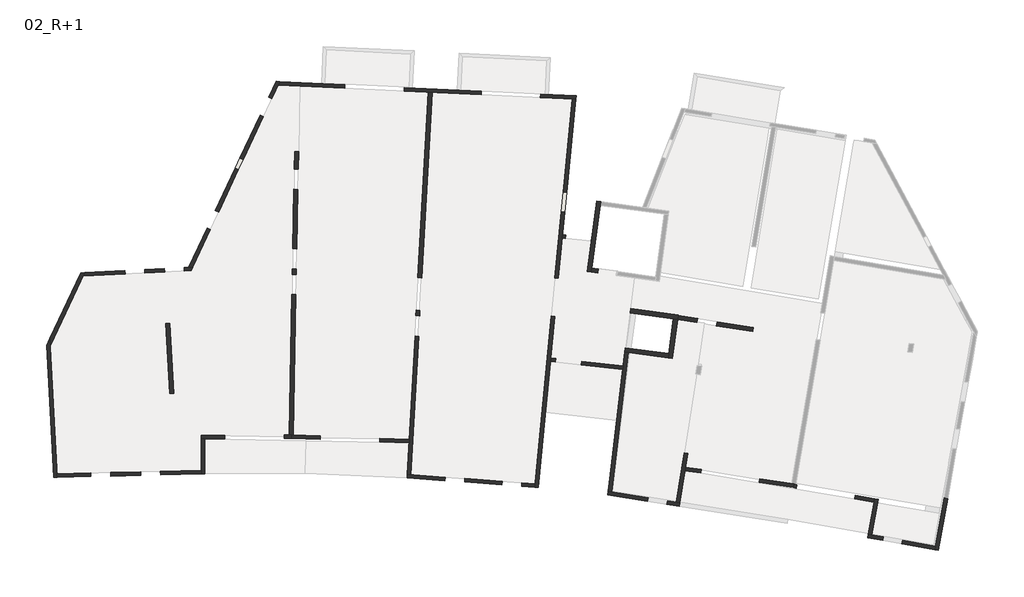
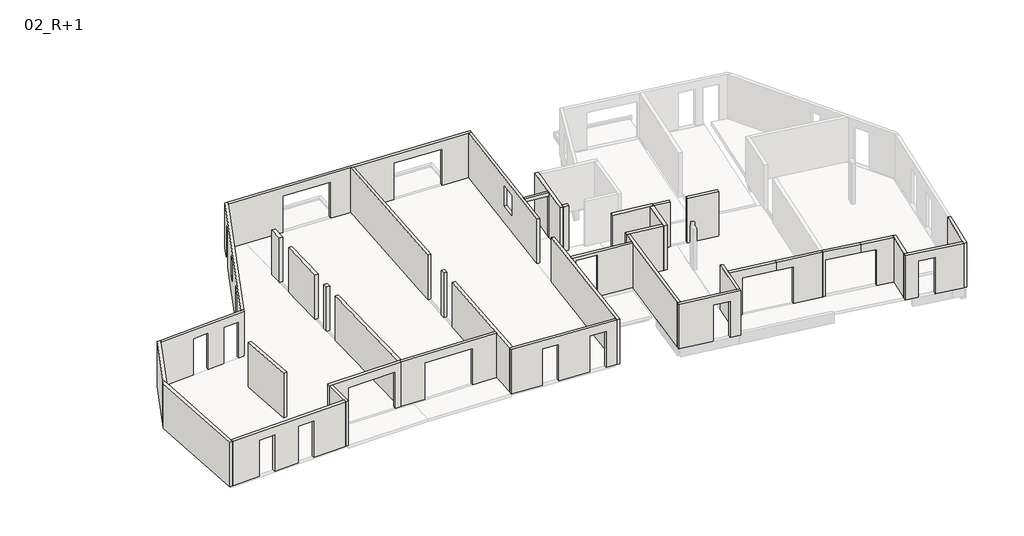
# One storey, part 1 of 3: 39 walls.
"""IFC4 building model written with IfcOpenShell, lengths in millimetres."""

from ifc_helpers import new_model, si_unit, frame, origin, place, context, project, spatial, polyline, outline, extrude, faceted_brep, element, save

model = new_model("IFC4")

# Units and contexts
model_context = context("Model", 3, world=origin())
ifc_project = project(units=[si_unit("LENGTHUNIT", "METRE", prefix="MILLI")], contexts=[model_context])

# Site, building, storey
site = spatial("IfcSite", under=ifc_project)
building = spatial("IfcBuilding", under=site)
storey = spatial("IfcBuildingStorey", under=building, Name="02_R+1", Elevation=24440.0)

# Walls
placement = place(None, origin())
element("IfcWall", 1, ObjectType="premur 16", at=placement, inside=storey, context=model_context, shape_type="Brep", body=[
    faceted_brep([(-17158.9755393, -917.3730061, 24440.0), (-17167.4464085, -757.5277977, 24440.0), (-17476.2392068, 5069.3889465, 24440.0), (-17494.0520225, 5405.5165831, 24440.0), (-17494.0520225, 5405.5165831, 27140.0), (-17476.2392068, 5069.3889465, 27140.0), (-17167.4464085, -757.5277977, 27140.0), (-17158.9755393, -917.3730061, 27140.0), (-17319.0009425, -921.1302131, 24440.0), (-17319.0009425, -921.1302131, 27140.0), (-17638.1560951, 5101.3240442, 27140.0), (-17638.1560951, 5101.3240442, 24440.0)], [[[0, 1, 2, 3, 4, 5, 6, 7]], [[8, 9, 10, 11]], [[3, 2, 1, 0, 8, 11]], [[7, 6, 5, 4, 10, 9]], [[4, 3, 11, 10]], [[0, 7, 9, 8]]]),
])
element("IfcWall", 2, ObjectType="premur 16", at=placement, inside=storey, context=model_context, shape_type="Brep", body=[
    faceted_brep([(-17476.2392068, 5069.3889465, 24440.0), (-15971.2579455, 8246.287853, 24440.0), (-15893.3800838, 8410.6819886, 24440.0), (-15893.3800838, 8410.6819886, 27140.0), (-15971.2579455, 8246.287853, 27140.0), (-17476.2392068, 5069.3889465, 27140.0), (-17494.0520225, 5405.5165831, 24440.0), (-17494.0520225, 5405.5165831, 27140.0), (-16075.0280874, 8400.9662298, 27140.0), (-16075.0280874, 8400.9662298, 24440.0)], [[[0, 1, 2, 3, 4, 5]], [[6, 7, 8, 9]], [[2, 1, 0, 6, 9]], [[5, 4, 3, 8, 7]], [[0, 5, 7, 6]], [[3, 2, 9, 8]]]),
])
element("IfcWall", 3, ObjectType="Voile BA 16", at=placement, inside=storey, context=model_context, shape_type="Brep", body=[
    faceted_brep([(-11056.9990051, 8509.135522, 27140.0), (-15971.2579455, 8246.287853, 27140.0), (-15971.2579455, 8246.287853, 24440.0), (-14060.9825419, 8348.4622486, 24440.0), (-14060.9825419, 8348.4622486, 26640.0), (-13162.2671602, 8396.5316006, 26640.0), (-13162.2671602, 8396.5316006, 24440.0), (-12263.5517784, 8444.6009527, 24440.0), (-12263.5517784, 8444.6009527, 26640.0), (-11364.8363967, 8492.6703048, 26640.0), (-11364.8363967, 8492.6703048, 24440.0), (-11056.9990051, 8509.135522, 24440.0), (-15893.3800838, 8410.6819886, 27140.0), (-10979.8718044, 8673.4895072, 27140.0), (-10979.8718044, 8673.4895072, 24440.0), (-11373.3820593, 8652.4419282, 24440.0), (-11373.3820593, 8652.4419282, 26640.0), (-12272.097441, 8604.3725761, 26640.0), (-12272.097441, 8604.3725761, 24440.0), (-13170.8128228, 8556.3032241, 24440.0), (-13170.8128228, 8556.3032241, 26640.0), (-14069.5282045, 8508.233872, 26640.0), (-14069.5282045, 8508.233872, 24440.0), (-15893.3800838, 8410.6819886, 24440.0)], [[[0, 1, 2, 3, 4, 5, 6, 7, 8, 9, 10, 11]], [[12, 13, 14, 15, 16, 17, 18, 19, 20, 21, 22, 23]], [[2, 23, 22, 3]], [[14, 11, 10, 15]], [[6, 19, 18, 7]], [[1, 0, 13, 12]], [[2, 1, 12, 23]], [[0, 11, 14, 13]], [[4, 3, 22, 21]], [[6, 5, 20, 19]], [[9, 16, 15, 10]], [[17, 8, 7, 18]], [[20, 5, 4, 21]], [[8, 17, 16, 9]]]),
])
element("IfcWall", 4, ObjectType="Voile BA 16", at=placement, inside=storey, context=model_context, shape_type="Brep", body=[
    faceted_brep([(-7017.912484, 17116.2152525, 27140.0), (-7091.4121226, 16959.5914104, 27140.0), (-10979.8718044, 8673.4895072, 27140.0), (-10979.8718044, 8673.4895072, 24440.0), (-10187.3464, 10362.3192234, 24440.0), (-10187.3464, 10362.3192234, 26640.0), (-9805.0053228, 11177.0678354, 26640.0), (-9805.0053228, 11177.0678354, 24440.0), (-7771.2372321, 15510.920061, 24440.0), (-7771.2372321, 15510.920061, 26640.0), (-7388.8961548, 16325.668673, 26640.0), (-7388.8961548, 16325.668673, 24440.0), (-7091.4121226, 16959.5914104, 24440.0), (-7017.912484, 17116.2152525, 24440.0), (-8904.379674, 13096.2534545, 25440.0), (-8904.379674, 13096.2534545, 26640.0), (-8691.9679644, 13548.8915723, 26640.0), (-8691.9679644, 13548.8915723, 25440.0), (-11161.1638648, 8663.7927867, 27140.0), (-7190.7216325, 17124.5951686, 27140.0), (-7190.7216325, 17124.5951686, 24440.0), (-7533.7403525, 16393.64042, 24440.0), (-7533.7403525, 16393.64042, 26640.0), (-7916.0814298, 15578.8918081, 26640.0), (-7916.0814298, 15578.8918081, 24440.0), (-9949.8495204, 11245.0395824, 24440.0), (-9949.8495204, 11245.0395824, 26640.0), (-10332.1905977, 10430.2909705, 26640.0), (-10332.1905977, 10430.2909705, 24440.0), (-11161.1638648, 8663.7927867, 24440.0), (-9049.2238717, 13164.2252016, 26640.0), (-9049.2238717, 13164.2252016, 25440.0), (-8836.8121621, 13616.8633193, 25440.0), (-8836.8121621, 13616.8633193, 26640.0)], [[[0, 1, 2, 3, 4, 5, 6, 7, 8, 9, 10, 11, 12, 13], [14, 15, 16, 17]], [[18, 19, 20, 21, 22, 23, 24, 25, 26, 27, 28, 29], [30, 31, 32, 33]], [[3, 29, 28, 4]], [[20, 13, 12, 11, 21]], [[7, 25, 24, 8]], [[2, 1, 0, 19, 18]], [[3, 2, 18, 29]], [[0, 13, 20, 19]], [[5, 4, 28, 27]], [[7, 6, 26, 25]], [[9, 8, 24, 23]], [[11, 10, 22, 21]], [[26, 6, 5, 27]], [[22, 10, 9, 23]], [[14, 31, 30, 15]], [[15, 30, 33, 16]], [[16, 33, 32, 17]], [[31, 14, 17, 32]]]),
])
element("IfcWall", 5, ObjectType="Voile BA 16", at=placement, inside=storey, context=model_context, shape_type="Brep", body=[
    faceted_brep([(6453.3490184, 16302.7745572, 27140.0), (6293.3502984, 16310.5332659, 27140.0), (-83.7808754, 16619.7751334, 27140.0), (-263.5744665, 16628.4937412, 27140.0), (-7091.4121226, 16959.5914104, 27140.0), (-7091.4121226, 16959.5914104, 24440.0), (-4062.9754782, 16812.7355001, 24440.0), (-4062.9754782, 16812.7355001, 26640.0), (-1366.144422, 16681.9599132, 26640.0), (-1366.144422, 16681.9599132, 24440.0), (-263.5744665, 16628.4937412, 24440.0), (-83.7808754, 16619.7751334, 24440.0), (2143.8751319, 16511.7509317, 24440.0), (2143.8751319, 16511.7509317, 26640.0), (4840.7061882, 16380.9753448, 26640.0), (4840.7061882, 16380.9753448, 24440.0), (6293.3502984, 16310.5332659, 24440.0), (6453.3490184, 16302.7745572, 24440.0), (-7017.912484, 17116.2152525, 27140.0), (6468.8218747, 16462.2122525, 27140.0), (6468.8218747, 16462.2122525, 24440.0), (4848.4558526, 16540.7875555, 24440.0), (4848.4558526, 16540.7875555, 26640.0), (2151.6247963, 16671.5631425, 26640.0), (2151.6247963, 16671.5631425, 24440.0), (-980.9727249, 16823.470055, 24440.0), (-1130.7966725, 16830.7353654, 24440.0), (-1358.3947576, 16841.7721239, 24440.0), (-1358.3947576, 16841.7721239, 26640.0), (-4055.2258138, 16972.5477109, 26640.0), (-4055.2258138, 16972.5477109, 24440.0), (-4972.2195206, 17017.0148605, 24440.0), (-5122.0434682, 17024.2801709, 24440.0), (-7017.912484, 17116.2152525, 24440.0)], [[[0, 1, 2, 3, 4, 5, 6, 7, 8, 9, 10, 11, 12, 13, 14, 15, 16, 17]], [[18, 19, 20, 21, 22, 23, 24, 25, 26, 27, 28, 29, 30, 31, 32, 33]], [[5, 33, 32, 31, 30, 6]], [[20, 17, 16, 15, 21]], [[9, 27, 26, 25, 24, 12, 11, 10]], [[4, 3, 2, 1, 0, 19, 18]], [[5, 4, 18, 33]], [[0, 17, 20, 19]], [[29, 7, 6, 30]], [[7, 29, 28, 8]], [[8, 28, 27, 9]], [[14, 22, 21, 15]], [[22, 14, 13, 23]], [[23, 13, 12, 24]]]),
])
element("IfcWall", 6, ObjectType="Voile BA 16", at=placement, inside=storey, context=model_context, shape_type="Brep", body=[
    faceted_brep([(6293.3502984, 16310.5332659, 24440.0), (5503.7697115, 8174.4201643, 24440.0), (5503.7697115, 8174.4201643, 27140.0), (6293.3502984, 16310.5332659, 27140.0), (5882.895758, 12081.0668646, 25440.0), (5882.895758, 12081.0668646, 26640.0), (5795.9623971, 11185.2752646, 26640.0), (5795.9623971, 11185.2752646, 25440.0), (5663.0215515, 8158.9653446, 24440.0), (5839.9618557, 9982.2198048, 24440.0), (5855.416689, 10141.4717853, 24440.0), (6453.3490184, 16302.7745572, 24440.0), (6453.3490184, 16302.7745572, 27140.0), (5855.416689, 10141.4717853, 27140.0), (5839.9618557, 9982.2198048, 27140.0), (5663.0215515, 8158.9653446, 27140.0), (6042.1475981, 12065.6120449, 26640.0), (6042.1475981, 12065.6120449, 25440.0), (5955.2142371, 11169.8204448, 25440.0), (5955.2142371, 11169.8204448, 26640.0)], [[[0, 1, 2, 3], [4, 5, 6, 7]], [[8, 9, 10, 11, 12, 13, 14, 15], [16, 17, 18, 19]], [[1, 0, 11, 10, 9, 8]], [[2, 1, 8, 15]], [[3, 2, 15, 14, 13, 12]], [[0, 3, 12, 11]], [[4, 17, 16, 5]], [[5, 16, 19, 6]], [[6, 19, 18, 7]], [[17, 4, 7, 18]]]),
])
element("IfcWall", 7, ObjectType="Voile BA 16", at=placement, inside=storey, context=model_context, shape_type="Brep", body=[
    faceted_brep([(-1216.1866993, -783.4940016, 27140.0), (-1056.5803812, -795.0069465, 27140.0), (4593.7649519, -1202.5855146, 27140.0), (4593.7649519, -1202.5855146, 24440.0), (3995.1545384, -1159.4057157, 24440.0), (3995.1545384, -1159.4057157, 26640.0), (3097.4868922, -1094.6539045, 26640.0), (3097.4868922, -1094.6539045, 24440.0), (1401.8924495, -972.344928, 24440.0), (1401.8924495, -972.344928, 26640.0), (504.2248033, -907.5931169, 26640.0), (504.2248033, -907.5931169, 24440.0), (-1056.5803812, -795.0069465, 24440.0), (-1216.1866993, -783.4940016, 24440.0), (4578.3054033, -1361.8860829, 27140.0), (-1225.11165, -943.2659327, 27140.0), (-1225.11165, -943.2659327, 24440.0), (492.7133702, -1067.1784762, 24440.0), (492.7133702, -1067.1784762, 26640.0), (1390.3810164, -1131.9302873, 26640.0), (1390.3810164, -1131.9302873, 24440.0), (3085.9754591, -1254.2392639, 24440.0), (3085.9754591, -1254.2392639, 26640.0), (3983.6431053, -1318.991075, 26640.0), (3983.6431053, -1318.991075, 24440.0), (4578.3054033, -1361.8860829, 24440.0)], [[[0, 1, 2, 3, 4, 5, 6, 7, 8, 9, 10, 11, 12, 13]], [[14, 15, 16, 17, 18, 19, 20, 21, 22, 23, 24, 25]], [[3, 25, 24, 4]], [[16, 13, 12, 11, 17]], [[7, 21, 20, 8]], [[2, 1, 0, 15, 14]], [[3, 2, 14, 25]], [[0, 13, 16, 15]], [[6, 22, 21, 7]], [[22, 6, 5, 23]], [[23, 5, 4, 24]], [[19, 9, 8, 20]], [[9, 19, 18, 10]], [[10, 18, 17, 11]]]),
])
element("IfcWall", 8, ObjectType="Voile BA 16", at=placement, inside=storey, context=model_context, shape_type="SweptSolid", body=[
    extrude(outline(polyline([(-704.4420316, 5508.8737408), (-1056.5803812, -795.0069465), (-1216.1866993, -783.4940016), (-864.192982, 5517.7975195), (-704.4420316, 5508.8737408)])), frame((0.0, 0.0, 24440.0), z_axis=(0.0, 0.0, 1.0), x_axis=(1.0, 0.0, 0.0)), (0.0, 0.0, 1.0), 2700.0),
])
element("IfcWall", 9, ObjectType="Voile BA 16", at=placement, inside=storey, context=model_context, shape_type="Brep", body=[
    faceted_brep([(-6495.5351796, 1016.6841724, 24440.0), (-6495.5351796, 1016.6841724, 27140.0), (-1127.255563, 808.5259344, 27140.0), (-1127.255563, 808.5259344, 24440.0), (-2469.6482567, 860.5780103, 24440.0), (-2469.6482567, 860.5780103, 26640.0), (-5167.6207546, 965.1935, 26640.0), (-5167.6207546, 965.1935, 24440.0), (-6501.734616, 856.8043207, 27140.0), (-6501.734616, 856.8043207, 24440.0), (-5173.820191, 805.3136483, 24440.0), (-5173.820191, 805.3136483, 26640.0), (-2475.8476931, 700.6981585, 26640.0), (-2475.8476931, 700.6981585, 24440.0), (-1136.1806384, 648.751771, 24440.0), (-1136.1806384, 648.751771, 27140.0)], [[[0, 1, 2, 3, 4, 5, 6, 7]], [[8, 9, 10, 11, 12, 13, 14, 15]], [[9, 0, 7, 10]], [[3, 14, 13, 4]], [[1, 0, 9, 8]], [[2, 1, 8, 15]], [[3, 2, 15, 14]], [[6, 11, 10, 7]], [[11, 6, 5, 12]], [[12, 5, 4, 13]]]),
])
element("IfcWall", 10, ObjectType="Voile BA 16", at=placement, inside=storey, context=model_context, shape_type="Brep", body=[
    faceted_brep([(-10592.539406, 994.0945088, 27140.0), (-6494.4429915, 1016.6901944, 27140.0), (-6494.4429915, 1016.6901944, 24440.0), (-6824.1625616, 1014.8722187, 24440.0), (-6824.1625616, 1014.8722187, 26640.0), (-9524.1215213, 999.9854474, 26640.0), (-9524.1215213, 999.9854474, 24440.0), (-10592.539406, 994.0945088, 24440.0), (-6493.5608125, 856.6926264, 27140.0), (-10432.539406, 834.9742692, 27140.0), (-10592.539406, 834.0920767, 27140.0), (-10592.539406, 834.0920767, 24440.0), (-10432.539406, 834.9742692, 24440.0), (-9523.2393422, 839.9878795, 24440.0), (-9523.2393422, 839.9878795, 26640.0), (-6823.2803825, 854.8746507, 26640.0), (-6823.2803825, 854.8746507, 24440.0), (-6493.5608125, 856.6926264, 24440.0)], [[[0, 1, 2, 3, 4, 5, 6, 7]], [[8, 9, 10, 11, 12, 13, 14, 15, 16, 17]], [[2, 17, 16, 3]], [[11, 7, 6, 13, 12]], [[1, 0, 10, 9, 8]], [[2, 1, 8, 17]], [[0, 7, 11, 10]], [[15, 4, 3, 16]], [[4, 15, 14, 5]], [[5, 14, 13, 6]]]),
])
element("IfcWall", 11, ObjectType="Voile BA 16", at=placement, inside=storey, context=model_context, shape_type="SweptSolid", body=[
    extrude(outline(polyline([(-10592.539406, -763.2008603), (-10592.539406, 834.0920767), (-10432.539406, 834.9742692), (-10432.539406, -759.4442497), (-10592.539406, -763.2008603)])), frame((0.0, 0.0, 24440.0), z_axis=(0.0, 0.0, 1.0), x_axis=(1.0, 0.0, 0.0)), (0.0, 0.0, 1.0), 2700.0),
])
element("IfcWall", 12, ObjectType="Voile BA 16", at=placement, inside=storey, context=model_context, shape_type="Brep", body=[
    faceted_brep([(-17167.4464085, -757.5277977, 27140.0), (-10592.539406, -603.156766, 27140.0), (-10592.539406, -603.156766, 24440.0), (-12452.2507768, -646.8205871, 24440.0), (-12452.2507768, -646.8205871, 26640.0), (-13352.0028146, -667.9456996, 26640.0), (-13352.0028146, -667.9456996, 24440.0), (-14721.6253611, -700.1028154, 24440.0), (-14721.6253611, -700.1028154, 26640.0), (-15621.377399, -721.2279279, 26640.0), (-15621.377399, -721.2279279, 24440.0), (-17167.4464085, -757.5277977, 24440.0), (-10592.539406, -763.2008603, 27140.0), (-17158.9755393, -917.3730061, 27140.0), (-17158.9755393, -917.3730061, 24440.0), (-15617.6218234, -881.1838458, 24440.0), (-15617.6218234, -881.1838458, 26640.0), (-14717.8697856, -860.0587332, 26640.0), (-14717.8697856, -860.0587332, 24440.0), (-13348.2472391, -827.9016175, 24440.0), (-13348.2472391, -827.9016175, 26640.0), (-12448.4952012, -806.7765049, 26640.0), (-12448.4952012, -806.7765049, 24440.0), (-10592.539406, -763.2008603, 24440.0)], [[[0, 1, 2, 3, 4, 5, 6, 7, 8, 9, 10, 11]], [[12, 13, 14, 15, 16, 17, 18, 19, 20, 21, 22, 23]], [[2, 23, 22, 3]], [[14, 11, 10, 15]], [[6, 19, 18, 7]], [[1, 0, 13, 12]], [[2, 1, 12, 23]], [[0, 11, 14, 13]], [[5, 20, 19, 6]], [[20, 5, 4, 21]], [[21, 4, 3, 22]], [[9, 16, 15, 10]], [[16, 9, 8, 17]], [[17, 8, 7, 18]]]),
])
element("IfcWall", 13, ObjectType="Voile BA 16", at=placement, inside=storey, context=model_context, shape_type="Brep", body=[
    faceted_brep([(7167.9271797, 9851.5647511, 27140.0), (5839.9618557, 9982.2198048, 27140.0), (5839.9618557, 9982.2198048, 24440.0), (5973.6933983, 9969.0623062, 24440.0), (5973.6933983, 9969.0623062, 26940.0), (7167.9271797, 9851.5647511, 26940.0), (5855.416689, 10141.4717853, 27140.0), (7189.6570326, 10010.1993488, 27140.0), (7189.6570326, 10010.1993488, 24440.0), (7183.5935204, 10010.795922, 24440.0), (7183.5935204, 10010.795922, 26940.0), (5989.359739, 10128.293477, 26940.0), (5989.359739, 10128.293477, 24440.0), (5855.416689, 10141.4717853, 24440.0), (7167.9271797, 9851.5647511, 24440.0)], [[[0, 1, 2, 3, 4, 5]], [[6, 7, 8, 9, 10, 11, 12, 13]], [[8, 14, 9]], [[2, 13, 12, 3]], [[1, 0, 7, 6]], [[14, 8, 7, 0, 5]], [[11, 4, 3, 12]], [[5, 10, 9, 14]], [[10, 5, 4, 11]], [[2, 1, 6, 13]]]),
])
element("IfcWall", 14, ObjectType="Voile BA 16", at=placement, inside=storey, context=model_context, shape_type="Brep", body=[
    faceted_brep([(19772.6117268, -3508.7343255, 27140.0), (19930.0520234, -3537.2415694, 27140.0), (22823.3072103, -4061.1146378, 27140.0), (22823.3072103, -4061.1146378, 24440.0), (21329.908285, -3790.7093584, 24440.0), (21329.908285, -3790.7093584, 26640.0), (20444.3085184, -3630.3564558, 26640.0), (20444.3085184, -3630.3564558, 24440.0), (20175.4376081, -3581.6728038, 24440.0), (19930.0520234, -3537.2415694, 24440.0), (19772.6117268, -3508.7343255, 24440.0), (22795.1311191, -4218.6145461, 27140.0), (19744.4307928, -3666.2333569, 27140.0), (19744.4307928, -3666.2333569, 24540.0), (19744.4307928, -3666.2333569, 24440.0), (20147.4276277, -3739.2027892, 24440.0), (20148.3574603, -3739.3711512, 24440.0), (20415.8013357, -3787.7964143, 24440.0), (20415.8013357, -3787.7964143, 26640.0), (21301.4011023, -3948.1493169, 26640.0), (21301.4011023, -3948.1493169, 24440.0), (22177.0901817, -4106.707721, 24440.0), (22795.1311191, -4218.6145461, 24440.0)], [[[0, 1, 2, 3, 4, 5, 6, 7, 8, 9, 10]], [[11, 12, 13, 14, 15, 16, 17, 18, 19, 20, 21, 22]], [[3, 22, 21, 20, 4]], [[14, 10, 9, 8, 7, 17, 16, 15]], [[2, 1, 0, 12, 11]], [[3, 2, 11, 22]], [[0, 10, 14, 13, 12]], [[6, 18, 17, 7]], [[18, 6, 5, 19]], [[19, 5, 4, 20]]]),
])
element("IfcWall", 15, ObjectType="Voile BA 16", at=placement, inside=storey, context=model_context, shape_type="Brep", body=[
    faceted_brep([(19930.0520234, -3537.2415694, 24440.0), (19936.9581738, -3498.644126, 24440.0), (20219.4818281, -1919.6616174, 24440.0), (20219.4818281, -1919.6616174, 27140.0), (19930.0520234, -3537.2415694, 27140.0), (19930.0520234, -3537.2415694, 24540.0), (19772.6117268, -3508.7343255, 24440.0), (19772.6117268, -3508.7343255, 27140.0), (20062.0484595, -1891.1156543, 27140.0), (20062.0484595, -1891.1156543, 24440.0), (19779.4288817, -3470.6342648, 24440.0)], [[[0, 1, 2, 3, 4, 5]], [[6, 7, 8, 9, 10]], [[2, 1, 0, 6, 10, 9]], [[4, 3, 8, 7]], [[0, 5, 4, 7, 6]], [[3, 2, 9, 8]]]),
])
element("IfcWall", 16, ObjectType="Voile BA 16", at=placement, inside=storey, context=model_context, shape_type="Brep", body=[
    faceted_brep([(18350.9425155, -1580.8563516, 27140.0), (20062.0484595, -1891.1156543, 27140.0), (20062.0484595, -1891.1156543, 24440.0), (19185.1893612, -1732.1227566, 24440.0), (19185.1893612, -1732.1227566, 26640.0), (19177.3057395, -1730.693291, 26640.0), (18350.9425155, -1580.8563516, 26640.0), (20033.8675103, -2048.6147707, 27140.0), (18322.3966291, -1738.2892973, 27140.0), (18322.3966291, -1738.2892973, 26640.0), (19148.7598531, -1888.1262367, 26640.0), (19156.6434748, -1889.5557022, 26640.0), (19156.6434748, -1889.5557022, 24440.0), (20033.8675103, -2048.6147707, 24440.0)], [[[0, 1, 2, 3, 4, 5, 6]], [[7, 8, 9, 10, 11, 12, 13]], [[2, 13, 12, 3]], [[8, 0, 6, 9]], [[1, 0, 8, 7]], [[2, 1, 7, 13]], [[4, 11, 10, 9, 6, 5]], [[11, 4, 3, 12]]]),
])
element("IfcWall", 17, ObjectType="Voile BA 16", at=placement, inside=storey, context=model_context, shape_type="Brep", body=[
    faceted_brep([(16370.140806, -1221.6955649, 27140.0), (18350.9425155, -1580.8563516, 27140.0), (18350.9425155, -1580.8563516, 26640.0), (16520.6247821, -1248.9814578, 26640.0), (16520.6247821, -1248.9814578, 24440.0), (16370.140806, -1221.6955649, 24440.0), (18322.3966291, -1738.2892973, 27140.0), (16343.5101728, -1379.475786, 27140.0), (16343.5101728, -1379.475786, 24440.0), (16492.0788957, -1406.4144034, 24440.0), (16492.0788957, -1406.4144034, 26640.0), (18322.3966291, -1738.2892973, 26640.0)], [[[0, 1, 2, 3, 4, 5]], [[6, 7, 8, 9, 10, 11]], [[8, 5, 4, 9]], [[1, 0, 7, 6]], [[1, 6, 11, 2]], [[2, 11, 10, 3]], [[3, 10, 9, 4]], [[0, 5, 8, 7]]]),
])
element("IfcWall", 18, ObjectType="Voile BA 16", at=placement, inside=storey, context=model_context, shape_type="SweptSolid", body=[
    extrude(outline(polyline([(-2455.056056, -2700.0), (-4980.3355316, -2700.0), (-4980.3355316, 0.0), (-4261.5117324, 0.0), (-4261.5117324, -2200.0), (-2455.056056, -2200.0), (-2455.056056, -2700.0)])), frame((16342.9064212, -1379.6730616, 24440.0), z_axis=(0.1545378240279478, 0.9879868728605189, 0.0), x_axis=(0.9879868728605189, -0.1545378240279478, 0.0)), (0.0, 0.0, 1.0), 160.0),
])
element("IfcWall", 19, ObjectType="Voile BA 16", at=placement, inside=storey, context=model_context, shape_type="Brep", body=[
    faceted_brep([(7922.887602, -1562.5526173, 27140.0), (8081.0258783, -1587.5839953, 27140.0), (11034.4248421, -2055.0713598, 27140.0), (11192.4575962, -2080.086035, 27140.0), (11192.4575962, -2080.086035, 24540.0), (11192.4575962, -2080.086035, 24440.0), (11103.4418628, -2065.9959201, 24440.0), (11034.4248421, -2055.0713598, 24440.0), (10629.6896777, -1991.0066744, 24440.0), (10629.6896777, -1991.0066744, 26640.0), (9740.7569176, -1850.2993612, 26640.0), (9740.7569176, -1850.2993612, 24440.0), (8081.0258783, -1587.5839953, 24440.0), (7922.887602, -1562.5526173, 24440.0), (11167.7315031, -2238.1641981, 27140.0), (7903.6562463, -1721.5005309, 27140.0), (7903.6562463, -1721.5005309, 24440.0), (8000.7446428, -1736.8684508, 24440.0), (9715.7422841, -2008.3318518, 24440.0), (9715.7422841, -2008.3318518, 26640.0), (10604.6750442, -2149.0391651, 26640.0), (10604.6750442, -2149.0391651, 24440.0), (11077.6030366, -2223.897951, 24440.0), (11078.4272293, -2224.0284108, 24440.0), (11167.7315031, -2238.1641981, 24440.0), (11167.7315031, -2238.1641981, 24540.0)], [[[0, 1, 2, 3, 4, 5, 6, 7, 8, 9, 10, 11, 12, 13]], [[14, 15, 16, 17, 18, 19, 20, 21, 22, 23, 24, 25]], [[16, 13, 12, 11, 18, 17]], [[5, 24, 23, 22, 21, 8, 7, 6]], [[3, 2, 1, 0, 15, 14]], [[0, 13, 16, 15]], [[5, 4, 3, 14, 25, 24]], [[10, 19, 18, 11]], [[19, 10, 9, 20]], [[20, 9, 8, 21]]]),
])
element("IfcWall", 20, ObjectType="Voile BA 16", at=placement, inside=storey, context=model_context, shape_type="Brep", body=[
    faceted_brep([(8081.0258783, -1587.5839953, 24440.0), (8850.1205245, 4769.0135975, 24440.0), (8850.1205245, 4769.0135975, 27140.0), (8081.0258783, -1587.5839953, 27140.0), (7922.887602, -1562.5526173, 24440.0), (7922.887602, -1562.5526173, 27140.0), (8595.977009, 4000.5578857, 27140.0), (8615.1960555, 4159.4040633, 27140.0), (8691.5669225, 4790.6122919, 27140.0), (8691.5669225, 4790.6122919, 24440.0), (8615.1960555, 4159.4040633, 24440.0), (8595.977009, 4000.5578857, 24440.0)], [[[0, 1, 2, 3]], [[4, 5, 6, 7, 8, 9, 10, 11]], [[1, 0, 4, 11, 10, 9]], [[3, 2, 8, 7, 6, 5]], [[0, 3, 5, 4]], [[2, 1, 9, 8]]]),
])
element("IfcWall", 21, ObjectType="Voile BA 16", at=placement, inside=storey, context=model_context, shape_type="Brep", body=[
    faceted_brep([(5311.2020038, 4533.6943094, 27140.0), (8615.1960555, 4159.4040633, 27140.0), (8615.1960555, 4159.4040633, 24440.0), (6729.7340399, 4372.9970755, 24440.0), (6729.7340399, 4372.9970755, 26940.0), (5537.3606943, 4508.0741084, 26940.0), (5537.3606943, 4508.0741084, 24440.0), (5311.2020038, 4533.6943094, 24440.0), (8595.977009, 4000.5578857, 27140.0), (5295.7451908, 4374.4219303, 27140.0), (5295.7451908, 4374.4219303, 24440.0), (5519.3504233, 4349.0909956, 24440.0), (5519.3504233, 4349.0909956, 26940.0), (6711.7237688, 4214.0139628, 26940.0), (6711.7237688, 4214.0139628, 24440.0), (8595.977009, 4000.5578857, 24440.0)], [[[0, 1, 2, 3, 4, 5, 6, 7]], [[8, 9, 10, 11, 12, 13, 14, 15]], [[2, 15, 14, 3]], [[10, 7, 6, 11]], [[1, 0, 9, 8]], [[2, 1, 8, 15]], [[5, 12, 11, 6]], [[13, 4, 3, 14]], [[4, 13, 12, 5]], [[0, 7, 10, 9]]]),
])
element("IfcWall", 22, ObjectType="Voile BA 16", at=placement, inside=storey, context=model_context, shape_type="SweptSolid", body=[
    extrude(outline(polyline([(11034.4248421, -2055.0713598), (11386.3654853, 194.9456683), (11544.443385, 170.2196165), (11192.4575962, -2080.086035), (11034.4248421, -2055.0713598)])), frame((0.0, 0.0, 24440.0), z_axis=(0.0, 0.0, 1.0), x_axis=(1.0, 0.0, 0.0)), (0.0, 0.0, 1.0), 2700.0),
])
element("IfcWall", 23, ObjectType="Voile BA 16", at=placement, inside=storey, context=model_context, shape_type="Brep", body=[
    faceted_brep([(5334.127821, 6426.3710972, 24440.0), (4593.7649519, -1202.5855146, 24440.0), (4578.3054033, -1361.8860829, 24440.0), (4578.3054033, -1361.8860829, 27140.0), (4593.7649519, -1202.5855146, 27140.0), (5334.127821, 6426.3710972, 27140.0), (5493.379661, 6410.9162775, 24440.0), (5493.379661, 6410.9162775, 27140.0), (5311.2020038, 4533.6943094, 27140.0), (5295.7451908, 4374.4219303, 27140.0), (4737.939593, -1373.4010383, 27140.0), (4737.939593, -1373.4010383, 24440.0), (5295.7451908, 4374.4219303, 24440.0), (5311.2020038, 4533.6943094, 24440.0)], [[[0, 1, 2, 3, 4, 5]], [[6, 7, 8, 9, 10, 11, 12, 13]], [[2, 1, 0, 6, 13, 12, 11]], [[5, 4, 3, 10, 9, 8, 7]], [[0, 5, 7, 6]], [[3, 2, 11, 10]]]),
])
element("IfcWall", 24, ObjectType="Voile BA 16", at=placement, inside=storey, context=model_context, shape_type="Brep", body=[
    faceted_brep([(13942.0600409, -842.1946907, 27140.0), (16370.140806, -1221.6955649, 27140.0), (16370.140806, -1221.6955649, 24440.0), (14824.8955864, -980.1789234, 24440.0), (14824.8955864, -980.1789234, 26640.0), (13942.0600409, -842.1946907, 26640.0), (16343.5101728, -1379.475786, 27140.0), (13917.3525423, -1000.2754913, 27140.0), (13917.3525423, -1000.2754913, 26640.0), (14800.1695344, -1138.2568241, 26640.0), (14800.1695344, -1138.2568241, 24440.0), (16343.5101728, -1379.475786, 24440.0)], [[[0, 1, 2, 3, 4, 5]], [[6, 7, 8, 9, 10, 11]], [[2, 11, 10, 3]], [[7, 0, 5, 8]], [[1, 0, 7, 6]], [[4, 9, 8, 5]], [[9, 4, 3, 10]], [[2, 1, 6, 11]]]),
])
element("IfcWall", 25, ObjectType="Voile BA 16", at=placement, inside=storey, context=model_context, shape_type="Brep", body=[
    faceted_brep([(23217.7122988, -1856.4523631, 24440.0), (22795.1311191, -4218.6145461, 24440.0), (22795.1311191, -4218.6145461, 27140.0), (23217.7122988, -1856.4523631, 27140.0), (23375.2118588, -1884.628392, 24440.0), (23375.2118588, -1884.628392, 27140.0), (22952.5714257, -4247.1217918, 27140.0), (22952.5714257, -4247.1217918, 24440.0), (22981.2561272, -4086.778832, 24440.0), (22829.5711862, -4224.8505061, 24440.0), (22826.5300105, -4224.2998495, 24440.0)], [[[0, 1, 2, 3]], [[4, 5, 6, 7, 8]], [[1, 0, 4, 8, 7, 9, 10]], [[3, 2, 6, 5]], [[0, 3, 5, 4]], [[2, 1, 10, 9, 7, 6]]]),
])
element("IfcWall", 26, ObjectType="Voile BA 18", at=placement, inside=storey, context=model_context, shape_type="SweptSolid", body=[
    extrude(outline(polyline([(-83.7808754, 16619.7751334), (-555.874822, 8168.4742423), (-735.5946419, 8178.5134825), (-263.5744665, 16628.4937412), (-83.7808754, 16619.7751334)])), frame((0.0, 0.0, 24440.0), z_axis=(0.0, 0.0, 1.0), x_axis=(1.0, 0.0, 0.0)), (0.0, 0.0, 1.0), 2700.0),
])
element("IfcWall", 27, ObjectType="Voile BA 18", at=placement, inside=storey, context=model_context, shape_type="Brep", body=[
    faceted_brep([(-6405.3998083, 1017.181152, 24440.0), (-6287.1079443, 7421.0249393, 24440.0), (-6287.1079443, 7421.0249393, 26490.0), (-6287.1079443, 7421.0249393, 27140.0), (-6287.1265481, 7420.0178039, 27140.0), (-6405.3998083, 1017.181152, 27140.0), (-6585.4488529, 1016.1884151, 24440.0), (-6585.4488529, 1016.1884151, 27140.0), (-6467.0772428, 7424.3493339, 27140.0), (-6467.0772428, 7424.3493339, 24440.0), (-6464.7440545, 7424.3062352, 27140.0)], [[[0, 1, 2, 3, 4, 5]], [[6, 7, 8, 9]], [[1, 0, 6, 9]], [[3, 2, 1, 9, 8, 10]], [[5, 4, 3, 10, 8, 7]], [[0, 5, 7, 6]]]),
])
element("IfcWall", 28, ObjectType="Voile BA 18", at=placement, inside=storey, context=model_context, shape_type="SweptSolid", body=[
    extrude(outline(polyline([(-12023.5137159, 6102.5840408), (-11854.4155012, 2914.7817549), (-12034.1627912, 2905.2469899), (-12203.2610059, 6093.0492758), (-12023.5137159, 6102.5840408)])), frame((0.0, 0.0, 24440.0), z_axis=(0.0, 0.0, 1.0), x_axis=(1.0, 0.0, 0.0)), (0.0, 0.0, 1.0), 2700.0),
])
element("IfcWall", 29, ObjectType="Voile BA 18", at=placement, inside=storey, context=model_context, shape_type="Brep", body=[
    faceted_brep([(7155.8650166, 8437.1810427, 24440.0), (7180.2934027, 8615.515761, 24440.0), (7571.2751033, 11469.802208, 24440.0), (7595.7034827, 11648.1368773, 24440.0), (7595.7034827, 11648.1368773, 27140.0), (7571.2751033, 11469.802208, 27140.0), (7180.2934027, 8615.515761, 27140.0), (7155.8650166, 8437.1810427, 27140.0), (6977.5122332, 8461.4771836, 27140.0), (7417.3688031, 11672.5651814, 27140.0), (7417.3688031, 11672.5651814, 24440.0), (7167.9271797, 9851.5647511, 24440.0), (6977.5122332, 8461.4771836, 24440.0)], [[[0, 1, 2, 3, 4, 5, 6, 7]], [[8, 9, 10, 11, 12]], [[3, 2, 1, 0, 12, 11, 10]], [[7, 6, 5, 4, 9, 8]], [[4, 3, 10, 9]], [[0, 7, 8, 12]]]),
])
element("IfcWall", 30, ObjectType="Voile BA 18", at=placement, inside=storey, context=model_context, shape_type="Brep", body=[
    faceted_brep([(11094.4999892, 6279.2285767, 24440.0), (11968.7570197, 6133.3589535, 24440.0), (11968.7570197, 6133.3589535, 27140.0), (11094.4999892, 6279.2285767, 27140.0), (11118.8073926, 6457.6611895, 24440.0), (11118.8073926, 6457.6611895, 27140.0), (11998.3804751, 6310.9045839, 27140.0), (11998.3804751, 6310.9045839, 24440.0), (11094.5883264, 6279.8770305, 24440.0), (11094.5883264, 6279.8770305, 27140.0)], [[[0, 1, 2, 3]], [[4, 5, 6, 7]], [[1, 0, 8, 4, 7]], [[2, 1, 7, 6]], [[3, 2, 6, 5, 9]], [[0, 3, 9, 5, 4, 8]]]),
])
element("IfcWall", 31, ObjectType="Voile BA 18", at=placement, inside=storey, context=model_context, shape_type="SweptSolid", body=[
    extrude(outline(polyline([(-6164.2279448, 13916.1732559), (-6178.7614208, 13132.1742835), (-6358.7305009, 13135.5104821), (-6344.1970249, 13919.5094545), (-6164.2279448, 13916.1732559)])), frame((0.0, 0.0, 24440.0), z_axis=(0.0, 0.0, 1.0), x_axis=(1.0, 0.0, 0.0)), (0.0, 0.0, 1.0), 2700.0),
])
element("IfcWall", 32, ObjectType="Voile BA 18", at=placement, inside=storey, context=model_context, shape_type="SweptSolid", body=[
    extrude(outline(polyline([(-6199.1785718, 12202.3929826), (-6249.3505643, 9495.8502086), (-6429.3196454, 9499.1863492), (-6379.1476529, 12205.7291233), (-6199.1785718, 12202.3929826)])), frame((0.0, 0.0, 24440.0), z_axis=(0.0, 0.0, 1.0), x_axis=(1.0, 0.0, 0.0)), (0.0, 0.0, 1.0), 2700.0),
])
element("IfcWall", 33, ObjectType="Voile BA 18", at=placement, inside=storey, context=model_context, shape_type="Brep", body=[
    faceted_brep([(-6273.2725408, 8320.9231682, 24440.0), (-6268.8485478, 8566.141094, 24440.0), (-6268.8485478, 8566.141094, 26490.0), (-6268.8485478, 8566.141094, 27140.0), (-6268.8673681, 8565.0979045, 27140.0), (-6273.2725408, 8320.9231682, 27140.0), (-6453.2432548, 8324.1700319, 24440.0), (-6453.2432548, 8324.1700319, 27140.0), (-6448.8192618, 8569.3879577, 27140.0), (-6448.8192618, 8569.3879577, 24440.0), (-6443.5937727, 8569.2936843, 27140.0)], [[[0, 1, 2, 3, 4, 5]], [[6, 7, 8, 9]], [[1, 0, 6, 9]], [[3, 2, 1, 9, 8, 10]], [[5, 4, 3, 10, 8, 7]], [[0, 5, 7, 6]]]),
])
element("IfcWall", 34, ObjectType="Voile BA 18", at=placement, inside=storey, context=model_context, shape_type="SweptSolid", body=[
    extrude(outline(polyline([(-638.4330136, 6690.548427), (-652.5725651, 6437.4261924), (-832.2923844, 6447.4654434), (-818.1528328, 6700.587678), (-638.4330136, 6690.548427)])), frame((0.0, 0.0, 24440.0), z_axis=(0.0, 0.0, 1.0), x_axis=(1.0, 0.0, 0.0)), (0.0, 0.0, 1.0), 2700.0),
])
element("IfcWall", 35, ObjectType="Voile BA 18", at=placement, inside=storey, context=model_context, shape_type="Brep", body=[
    faceted_brep([(7478.1461864, 8574.9407105, 24440.0), (7180.2934027, 8615.515761, 24440.0), (7180.2934027, 8615.515761, 27140.0), (7478.1461864, 8574.9407105, 27140.0), (7478.1461864, 8574.9407105, 26490.0), (7453.8500522, 8396.5879761, 24440.0), (7453.8500522, 8396.5879761, 26490.0), (7453.8500522, 8396.5879761, 27140.0), (7155.8650166, 8437.1810427, 27140.0), (7155.8650166, 8437.1810427, 24440.0)], [[[0, 1, 2, 3, 4]], [[5, 6, 7, 8, 9]], [[1, 0, 5, 9]], [[3, 2, 8, 7]], [[0, 4, 3, 7, 6, 5]], [[2, 1, 9, 8]]]),
])
element("IfcWall", 36, ObjectType="Voile BA 18", at=placement, inside=storey, context=model_context, shape_type="SweptSolid", body=[
    extrude(outline(polyline([(14498.2970177, 5724.61378), (12857.3026607, 5989.7777451), (12886.0159443, 6167.4728417), (14527.0103013, 5902.3088765), (14498.2970177, 5724.61378)])), frame((0.0, 0.0, 24440.0), z_axis=(0.0, 0.0, 1.0), x_axis=(1.0, 0.0, 0.0)), (0.0, 0.0, 1.0), 2700.0),
])
element("IfcWall", 37, ObjectType="Voile BA 20", at=placement, inside=storey, context=model_context, shape_type="Brep", body=[
    faceted_brep([(8933.8340773, 6574.2220976, 24440.0), (10896.4185715, 6306.8723679, 24440.0), (11094.5883264, 6279.8770305, 24440.0), (11094.5883264, 6279.8770305, 27140.0), (10896.4185715, 6306.8723679, 27140.0), (8933.8340773, 6574.2220976, 27140.0), (8960.8294146, 6772.3918525, 24440.0), (8960.8294146, 6772.3918525, 27140.0), (11121.5844538, 6478.0466778, 27140.0), (11121.5844538, 6478.0466778, 24440.0), (11118.8073926, 6457.6611895, 24440.0), (11118.8073926, 6457.6611895, 27140.0)], [[[0, 1, 2, 3, 4, 5]], [[6, 7, 8, 9]], [[2, 1, 0, 6, 9, 10]], [[5, 4, 3, 11, 8, 7]], [[0, 5, 7, 6]], [[3, 2, 10, 9, 8, 11]]]),
])
element("IfcWall", 38, ObjectType="Voile BA 20", at=placement, inside=storey, context=model_context, shape_type="Brep", body=[
    faceted_brep([(10896.4185715, 6306.8723679, 24440.0), (10680.4511709, 4721.5270717, 24440.0), (10653.4550435, 4523.3574244, 24440.0), (10653.4550435, 4523.3574244, 27140.0), (10680.4511709, 4721.5270717, 27140.0), (10896.4185715, 6306.8723679, 27140.0), (11094.5883264, 6279.8770305, 24440.0), (11094.5883264, 6279.8770305, 27140.0), (11094.4999892, 6279.2285767, 27140.0), (10851.6247984, 4496.3620871, 27140.0), (10851.6247984, 4496.3620871, 24440.0), (11094.4999892, 6279.2285767, 24440.0)], [[[0, 1, 2, 3, 4, 5]], [[6, 7, 8, 9, 10, 11]], [[2, 1, 0, 6, 11, 10]], [[5, 4, 3, 9, 8, 7]], [[0, 5, 7, 6]], [[3, 2, 10, 9]]]),
])
element("IfcWall", 39, ObjectType="Voile BA 20", at=placement, inside=storey, context=model_context, shape_type="SweptSolid", body=[
    extrude(outline(polyline([(8715.5927333, 4989.1865655), (10680.4511709, 4721.5270717), (10653.4550435, 4523.3574244), (8691.5669225, 4790.6122919), (8715.5927333, 4989.1865655)])), frame((0.0, 0.0, 24440.0), z_axis=(0.0, 0.0, 1.0), x_axis=(1.0, 0.0, 0.0)), (0.0, 0.0, 1.0), 2700.0),
])

save(model, "model.ifc")
